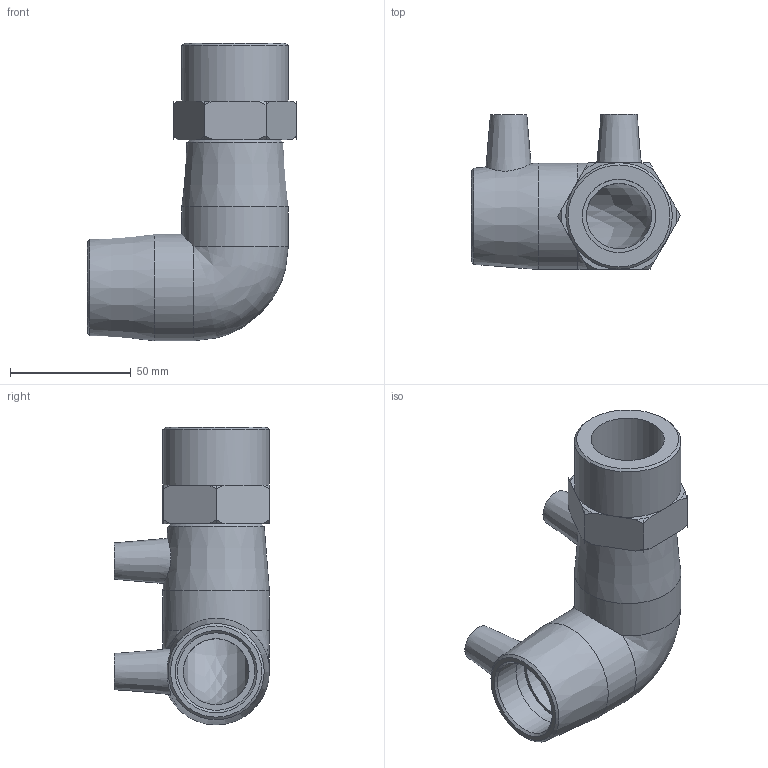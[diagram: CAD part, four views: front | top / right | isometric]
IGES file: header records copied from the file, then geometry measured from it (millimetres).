
Global section: file name: 493504032010N.ipt; native system: Autodesk Inventor 2015; preprocessor: unknown; author: KIM; date: 20200202.123451; units: millimetre
Bounding box: 86.4 x 64.06 x 123 mm (x, y, z)
Volume: 133856.9 mm3; surface area: 42936.8 mm2
Topology: 2 solids, 2 shells, 76 faces, 215 edges, 150 vertices
Faces by surface type: plane 27, revolution 22, cone 19, cylinder 7, bspline 1
Full cylindrical faces by diameter (mm): 4 x2, 32 x2, 44 x3
